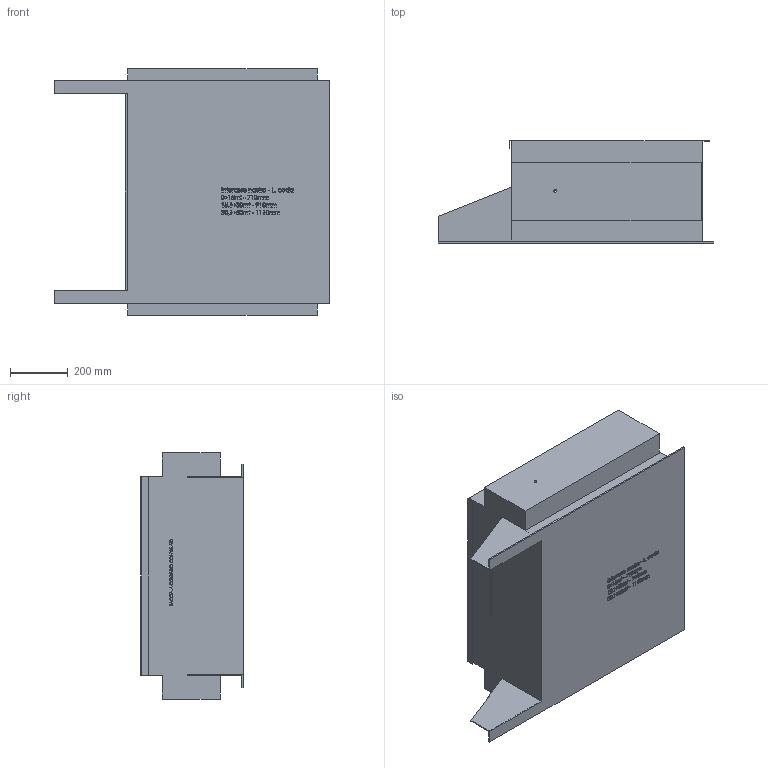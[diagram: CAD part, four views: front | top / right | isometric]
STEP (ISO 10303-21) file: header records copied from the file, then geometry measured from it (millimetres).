
FILE_DESCRIPTION (( 'STEP AP203' ), '1' );
FILE_NAME ('30043.step', '2019-03-14T14:31:14', ( 'PC' ), ( 'Hewlett-Packard Company' ), 'SwSTEP 2.0', 'SolidWorks 2016', '' );
FILE_SCHEMA (( 'CONFIG_CONTROL_DESIGN' ));
Length unit declared in the file: millimetre
Products named in the file (1): 30043
Bounding box: 950 x 353.5 x 850 mm (x, y, z)
Volume: 182233766 mm3; surface area: 2600197.1 mm2
Topology: 1 solids, 1 shells, 1110 faces, 2964 edges, 1976 vertices
Faces by surface type: plane 679, bspline 429, cylinder 2
Entity records: 57931 total; most frequent: CARTESIAN_POINT 33072, ORIENTED_EDGE 5928, DIRECTION 3474, EDGE_CURVE 2964, LINE 2102, VECTOR 2102, VERTEX_POINT 1976, EDGE_LOOP 1232
